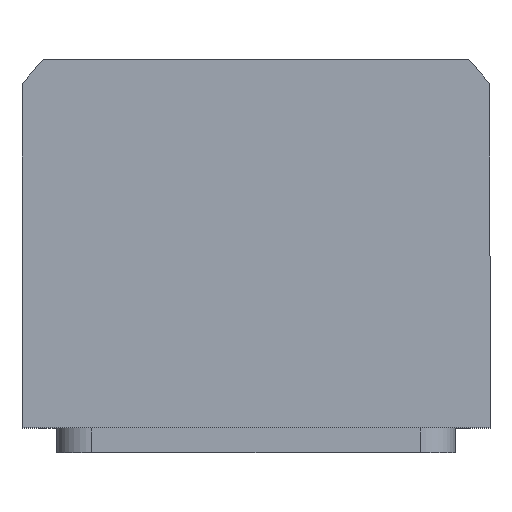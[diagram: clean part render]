
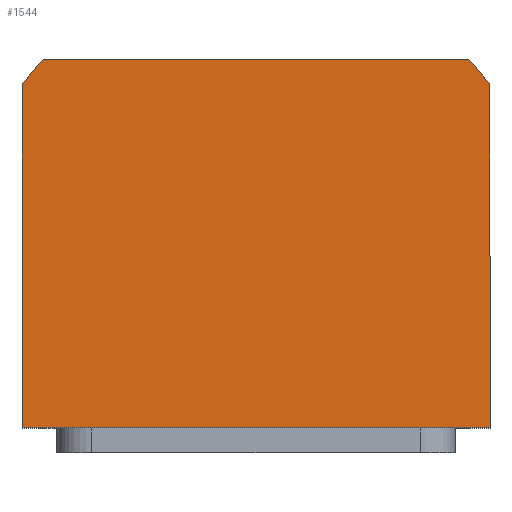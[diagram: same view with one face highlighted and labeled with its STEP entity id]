
A CAD part, top view. The second image highlights one B-rep face of the part: STEP entity #1544.
In plain terms, the highlighted planar face has unit normal (0, 0, 1).
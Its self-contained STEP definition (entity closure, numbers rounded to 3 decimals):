
#188 = FACE_OUTER_BOUND ( 'NONE', #1830, .T. ) ;
#662 = DIRECTION ( 'NONE',  ( 0., 0., 1. ) ) ;
#890 = CARTESIAN_POINT ( 'NONE',  ( 47., 34.832, 45. ) ) ;
#1075 = AXIS2_PLACEMENT_3D ( 'NONE', #10888, #14424, #12001 ) ;
#1155 = CARTESIAN_POINT ( 'NONE',  ( 47., -34., 45. ) ) ;
#1544 = ADVANCED_FACE ( 'NONE', ( #188 ), #3945, .T. ) ;
#1830 = EDGE_LOOP ( 'NONE', ( #5269, #10167, #13283, #14000, #5791, #8490 ) ) ;
#2047 = VECTOR ( 'NONE', #7237, 1000. ) ;
#2191 = VECTOR ( 'NONE', #12420, 1000. ) ;
#2380 = LINE ( 'NONE', #14125, #14282 ) ;
#2397 = CIRCLE ( 'NONE', #6884, 58.5 ) ;
#2545 = DIRECTION ( 'NONE',  ( 1., 0., 0. ) ) ;
#2723 = DIRECTION ( 'NONE',  ( 0., -1., 0. ) ) ;
#2809 = CARTESIAN_POINT ( 'NONE',  ( -42.688, 40., 45. ) ) ;
#2921 = CARTESIAN_POINT ( 'NONE',  ( -42.688, 40., 45. ) ) ;
#3945 = PLANE ( 'NONE',  #1075 ) ;
#3963 = EDGE_CURVE ( 'NONE', #6906, #9370, #9960, .T. ) ;
#4009 = VERTEX_POINT ( 'NONE', #4435 ) ;
#4435 = CARTESIAN_POINT ( 'NONE',  ( 42.688, 40., 45. ) ) ;
#5103 = LINE ( 'NONE', #2809, #2047 ) ;
#5269 = ORIENTED_EDGE ( 'NONE', *, *, #3963, .T. ) ;
#5425 = CARTESIAN_POINT ( 'NONE',  ( 47., -34., 45. ) ) ;
#5568 = AXIS2_PLACEMENT_3D ( 'NONE', #14373, #662, #6279 ) ;
#5791 = ORIENTED_EDGE ( 'NONE', *, *, #9622, .T. ) ;
#5817 = CARTESIAN_POINT ( 'NONE',  ( 0., 0., 45. ) ) ;
#6279 = DIRECTION ( 'NONE',  ( 1., 0., 0. ) ) ;
#6884 = AXIS2_PLACEMENT_3D ( 'NONE', #5817, #13996, #2545 ) ;
#6906 = VERTEX_POINT ( 'NONE', #6975 ) ;
#6975 = CARTESIAN_POINT ( 'NONE',  ( -47., -34., 45. ) ) ;
#7237 = DIRECTION ( 'NONE',  ( -1., 0., 0. ) ) ;
#8490 = ORIENTED_EDGE ( 'NONE', *, *, #11877, .T. ) ;
#8734 = VERTEX_POINT ( 'NONE', #10173 ) ;
#8894 = DIRECTION ( 'NONE',  ( 1., 0., 0. ) ) ;
#9166 = EDGE_CURVE ( 'NONE', #12486, #4009, #10341, .T. ) ;
#9370 = VERTEX_POINT ( 'NONE', #1155 ) ;
#9622 = EDGE_CURVE ( 'NONE', #10903, #8734, #2397, .T. ) ;
#9960 = LINE ( 'NONE', #5425, #14308 ) ;
#10025 = EDGE_CURVE ( 'NONE', #4009, #10903, #5103, .T. ) ;
#10113 = CARTESIAN_POINT ( 'NONE',  ( 47., 34.832, 45. ) ) ;
#10167 = ORIENTED_EDGE ( 'NONE', *, *, #14185, .T. ) ;
#10173 = CARTESIAN_POINT ( 'NONE',  ( -47., 34.832, 45. ) ) ;
#10341 = CIRCLE ( 'NONE', #5568, 58.5 ) ;
#10888 = CARTESIAN_POINT ( 'NONE',  ( 0., 0., 45. ) ) ;
#10903 = VERTEX_POINT ( 'NONE', #2921 ) ;
#11877 = EDGE_CURVE ( 'NONE', #8734, #6906, #2380, .T. ) ;
#12001 = DIRECTION ( 'NONE',  ( 1., 0., 0. ) ) ;
#12420 = DIRECTION ( 'NONE',  ( 0., 1., 0. ) ) ;
#12486 = VERTEX_POINT ( 'NONE', #10113 ) ;
#12818 = LINE ( 'NONE', #890, #2191 ) ;
#13283 = ORIENTED_EDGE ( 'NONE', *, *, #9166, .T. ) ;
#13996 = DIRECTION ( 'NONE',  ( 0., 0., 1. ) ) ;
#14000 = ORIENTED_EDGE ( 'NONE', *, *, #10025, .T. ) ;
#14125 = CARTESIAN_POINT ( 'NONE',  ( -47., -34., 45. ) ) ;
#14185 = EDGE_CURVE ( 'NONE', #9370, #12486, #12818, .T. ) ;
#14282 = VECTOR ( 'NONE', #2723, 1000. ) ;
#14308 = VECTOR ( 'NONE', #8894, 1000. ) ;
#14373 = CARTESIAN_POINT ( 'NONE',  ( 0., 0., 45. ) ) ;
#14424 = DIRECTION ( 'NONE',  ( 0., 0., 1. ) ) ;
